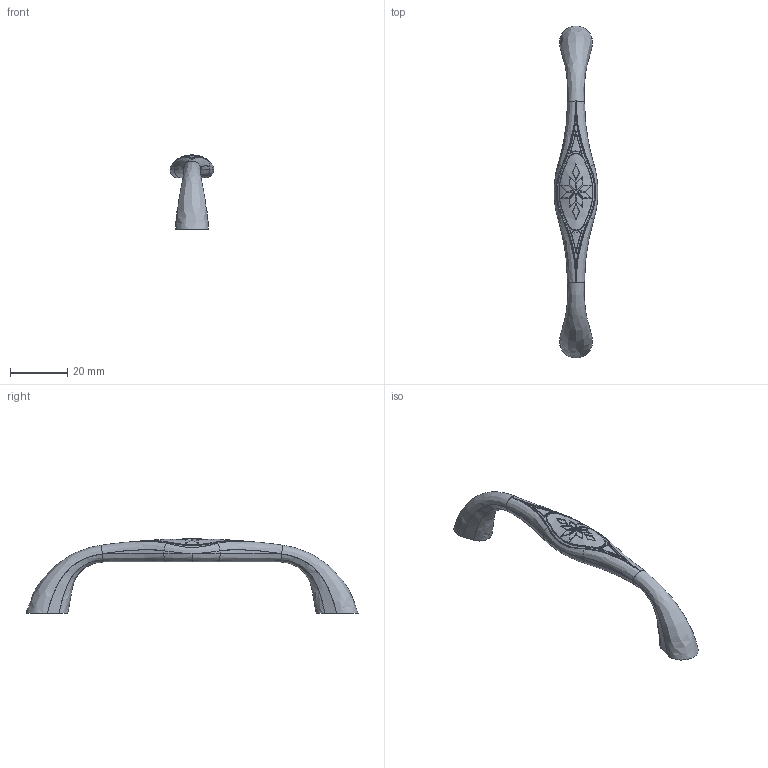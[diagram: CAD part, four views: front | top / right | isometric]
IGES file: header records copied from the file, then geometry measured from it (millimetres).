
Start section: C
Global section: file name: 8084-116.igs; native system: By Siemens PLM Incorporated; preprocessor: XPlus GENERIC/IGES 16.0.42; author: Author; organization: Title; date: 20231128.122444; units: millimetre
Bounding box: 15.4 x 116.4 x 26 mm (x, y, z)
Surface area: 4496 mm2 (no closed solid volume)
Topology: 0 solids, 0 shells, 193 faces, 1090 edges, 1090 vertices
Faces by surface type: bspline 193
